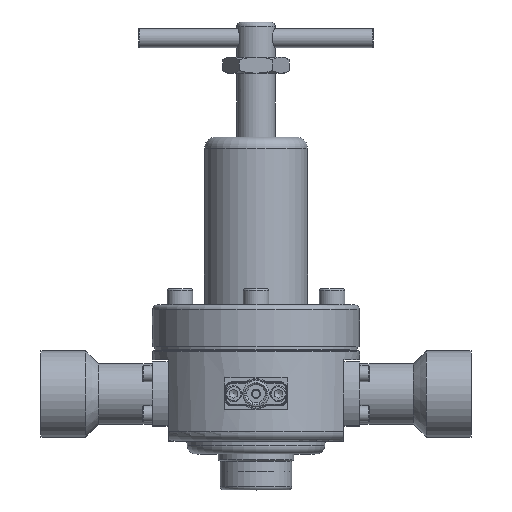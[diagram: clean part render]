
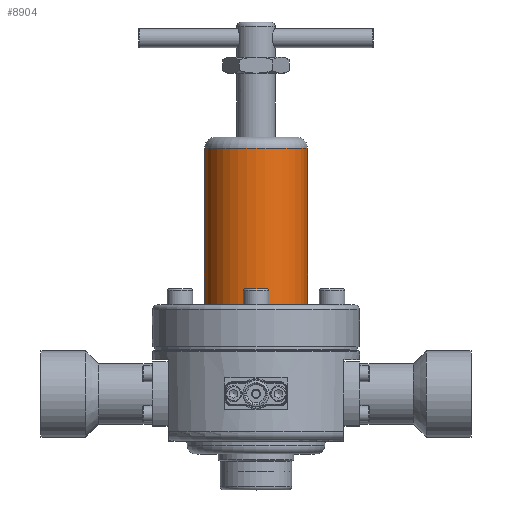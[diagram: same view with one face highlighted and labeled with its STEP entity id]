
A CAD part, top view. The second image highlights one B-rep face of the part: STEP entity #8904.
In plain terms, the highlighted cylindrical face has radius 32.25 mm (diameter 64.5 mm), a full revolution.
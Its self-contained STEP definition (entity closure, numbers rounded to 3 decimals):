
#1024=LINE('',#17258,#1435);
#1435=VECTOR('',#12321,32.25);
#1712=CYLINDRICAL_SURFACE('',#10267,32.25);
#2264=FACE_OUTER_BOUND('',#2859,.T.);
#2859=EDGE_LOOP('',(#7373,#7374,#7375,#7376,#7377));
#3451=CIRCLE('',#10261,32.25);
#3454=CIRCLE('',#10264,32.25);
#3456=CIRCLE('',#10268,32.25);
#4187=VERTEX_POINT('',#17245);
#4188=VERTEX_POINT('',#17246);
#4191=VERTEX_POINT('',#17256);
#5307=EDGE_CURVE('',#4187,#4188,#3451,.T.);
#5310=EDGE_CURVE('',#4188,#4187,#3454,.T.);
#5312=EDGE_CURVE('',#4191,#4191,#3456,.T.);
#5313=EDGE_CURVE('',#4191,#4187,#1024,.T.);
#7373=ORIENTED_EDGE('',*,*,#5312,.F.);
#7374=ORIENTED_EDGE('',*,*,#5313,.T.);
#7375=ORIENTED_EDGE('',*,*,#5310,.F.);
#7376=ORIENTED_EDGE('',*,*,#5307,.F.);
#7377=ORIENTED_EDGE('',*,*,#5313,.F.);
#8904=ADVANCED_FACE('',(#2264),#1712,.T.);
#10261=AXIS2_PLACEMENT_3D('',#17247,#12305,#12306);
#10264=AXIS2_PLACEMENT_3D('',#17251,#12311,#12312);
#10267=AXIS2_PLACEMENT_3D('',#17255,#12317,#12318);
#10268=AXIS2_PLACEMENT_3D('',#17257,#12319,#12320);
#12305=DIRECTION('center_axis',(0.,1.,0.));
#12306=DIRECTION('ref_axis',(-1.,0.,0.));
#12311=DIRECTION('center_axis',(0.,1.,0.));
#12312=DIRECTION('ref_axis',(-1.,0.,0.));
#12317=DIRECTION('center_axis',(0.,-1.,0.));
#12318=DIRECTION('ref_axis',(1.,0.,0.));
#12319=DIRECTION('center_axis',(0.,-1.,0.));
#12320=DIRECTION('ref_axis',(1.,0.,0.));
#12321=DIRECTION('',(0.,1.,0.));
#17245=CARTESIAN_POINT('',(-32.25,108.,0.));
#17246=CARTESIAN_POINT('',(0.,108.,32.25));
#17247=CARTESIAN_POINT('Origin',(0.,108.,
0.));
#17251=CARTESIAN_POINT('Origin',(0.,108.,
0.));
#17255=CARTESIAN_POINT('Origin',(0.,61.5,
0.));
#17256=CARTESIAN_POINT('',(-32.25,8.,0.));
#17257=CARTESIAN_POINT('Origin',(0.,8.,
0.));
#17258=CARTESIAN_POINT('',(-32.25,61.5,0.));
